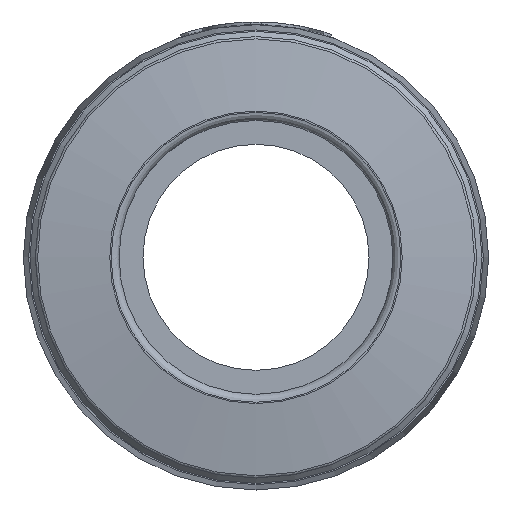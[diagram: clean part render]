
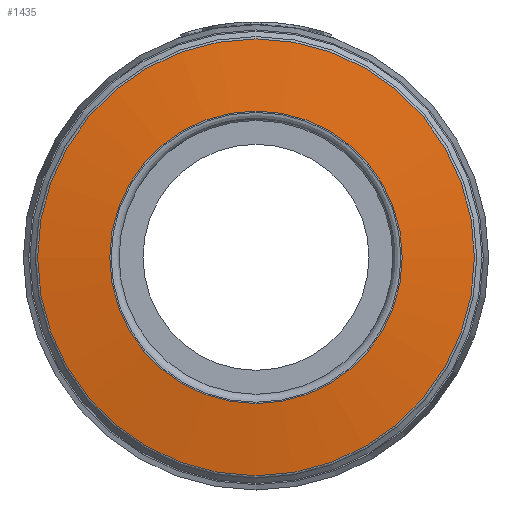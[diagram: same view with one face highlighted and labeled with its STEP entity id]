
A CAD part, left-side view. The second image highlights one B-rep face of the part: STEP entity #1435.
In plain terms, the highlighted conical face has half-angle 81.87 degrees and reference radius 6.857 mm.
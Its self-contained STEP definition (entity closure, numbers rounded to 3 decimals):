
#337=CARTESIAN_POINT('',(0.0,5.5,0.0));
#338=VERTEX_POINT('',#337);
#339=CARTESIAN_POINT('',(0.0,0.0,0.0));
#340=DIRECTION('',(1.0,0.0,0.0));
#341=DIRECTION('',(0.0,1.0,0.0));
#342=AXIS2_PLACEMENT_3D('',#339,#340,#341);
#343=CIRCLE('',#342,5.5);
#344=EDGE_CURVE('',#338,#338,#343,.T.);
#1416=CARTESIAN_POINT('',(0.194,0.,0.0));
#1417=DIRECTION('',(1.0,0.,0.0));
#1418=DIRECTION('',(0.0,1.0,0.0));
#1419=AXIS2_PLACEMENT_3D('',#1416,#1417,#1418);
#1420=CONICAL_SURFACE('',#1419,6.857,81.87);
#1421=CARTESIAN_POINT('',(0.388,8.214,0.0));
#1422=VERTEX_POINT('',#1421);
#1423=CARTESIAN_POINT('',(0.388,0.,0.0));
#1424=DIRECTION('',(1.0,0.0,0.0));
#1425=DIRECTION('',(0.0,1.0,0.0));
#1426=AXIS2_PLACEMENT_3D('',#1423,#1424,#1425);
#1427=CIRCLE('',#1426,8.214);
#1428=EDGE_CURVE('',#1422,#1422,#1427,.T.);
#1429=ORIENTED_EDGE('',*,*,#1428,.F.);
#1430=EDGE_LOOP('',(#1429));
#1431=FACE_OUTER_BOUND('',#1430,.T.);
#1432=ORIENTED_EDGE('',*,*,#344,.T.);
#1433=EDGE_LOOP('',(#1432));
#1434=FACE_BOUND('',#1433,.T.);
#1435=ADVANCED_FACE('',(#1431,#1434),#1420,.T.);
